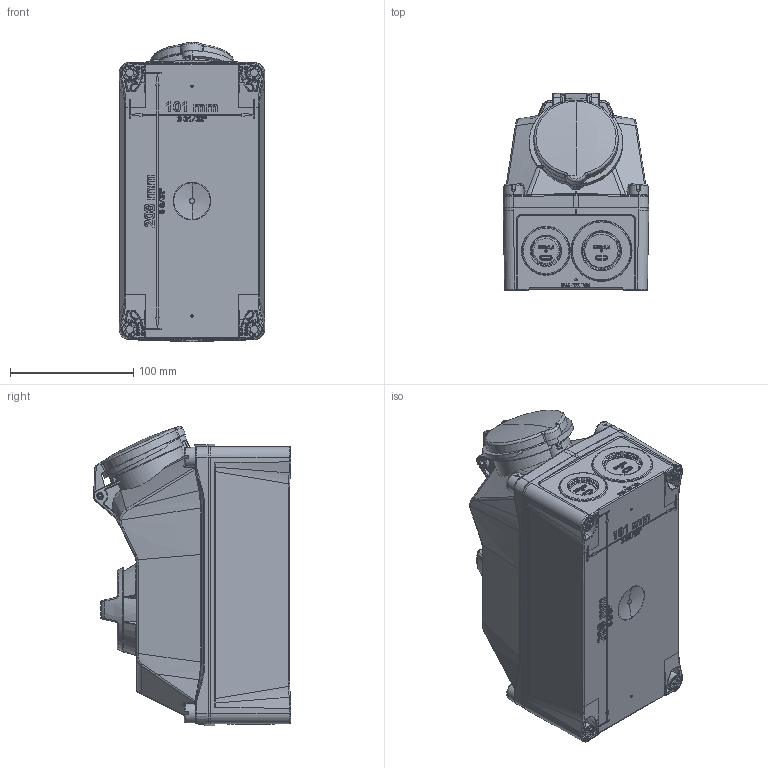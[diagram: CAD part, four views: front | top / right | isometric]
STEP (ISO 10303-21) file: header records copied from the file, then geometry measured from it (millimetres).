
FILE_DESCRIPTION((''),'2;1');
FILE_NAME('1132001_SW0003','2022-08-17T10:00:06',('funke002'),('MENNEKES'),'CREO PARAMETRIC BY PTC INC, 2019080','CREO PARAMETRIC BY PTC INC, 2019080','');
FILE_SCHEMA(('AUTOMOTIVE_DESIGN { 1 0 10303 214 1 1 1 1 }'));
Products named in the file (1): 1132001_SW0003
Bounding box: 118 x 159.89 x 242.83 mm (x, y, z)
Volume: 3077019 mm3; surface area: 165395 mm2
Topology: 1 solids, 1 shells, 3777 faces, 9533 edges, 5884 vertices
Faces by surface type: plane 1129, bspline 945, cylinder 638, extrusion 628, torus 204, cone 118, sphere 115
Entity records: 186144 total; most frequent: CARTESIAN_POINT 74807, ORIENTED_EDGE 19038, DIRECTION 12951, EDGE_CURVE 9519, VERTEX_POINT 5885, VECTOR 4519, PRESENTATION_STYLE_ASSIGNMENT 4304, STYLED_ITEM 4304
